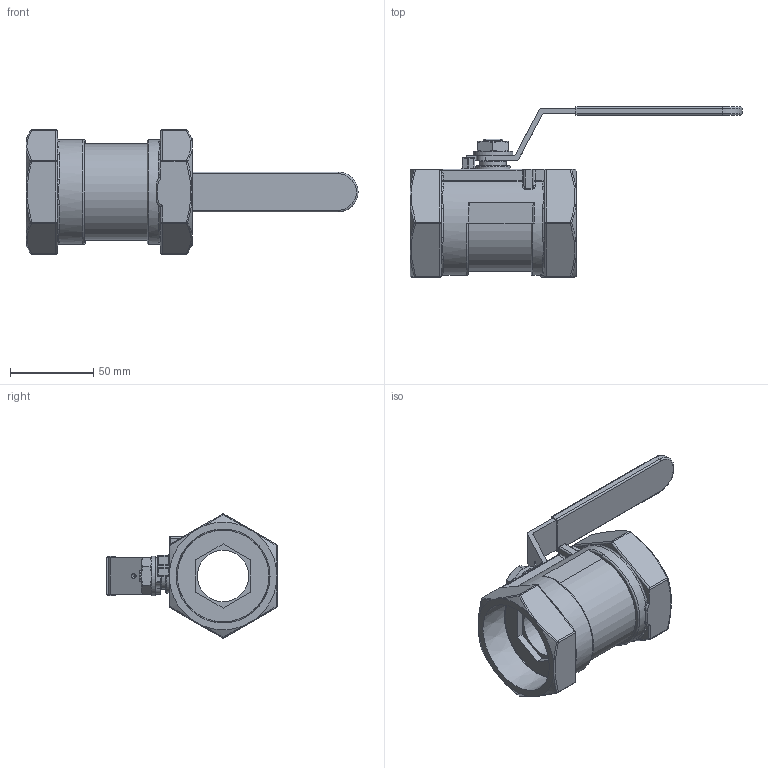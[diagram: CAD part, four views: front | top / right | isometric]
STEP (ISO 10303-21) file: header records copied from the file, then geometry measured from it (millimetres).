
FILE_DESCRIPTION((''),'2;1');
FILE_NAME('F:\Drawings\OneDrive - Avco Valve\Derek\100 Series\Machine Drawings\3D Insertables\100 Series\100-SE-200-LH.stp','2022-10-07T09:22:29',('dKouns'),(''),'Autodesk Inventor 2012','Autodesk Inventor 2012','');
FILE_SCHEMA(('AUTOMOTIVE_DESIGN { 1 0 10303 214 1 1 1 1 }'));
Length unit declared in the file: millimetre
Products named in the file (6): 100-SE-200-LH; 100-SE-200; M12 Jam Nut; M12 Washer; 100-150-SLEEVE; 100-200-HANDLE
Assembly tree (5 placements, depth 2):
  100-SE-200-LH
    100-SE-200
    M12 Jam Nut
    M12 Washer
    100-150-SLEEVE
    100-200-HANDLE
Bounding box: 200 x 102.5 x 74.75 mm (x, y, z)
Volume: 210246.9 mm3; surface area: 62885.4 mm2
Topology: 5 solids, 5 shells, 640 faces, 1603 edges, 1007 vertices
Faces by surface type: plane 227, bspline 187, cylinder 122, torus 41, sphere 33, cone 30
Full cylindrical faces by diameter (mm): 3 x1, 13 x1, 16 x1, 20.5 x1, 24 x1, 31 x1, 55.169 x2
Entity records: 22418 total; most frequent: CARTESIAN_POINT 8235, ORIENTED_EDGE 3154, DIRECTION 2433, EDGE_CURVE 1577, VERTEX_POINT 1000, AXIS2_PLACEMENT_3D 849, VECTOR 735, LINE 735
